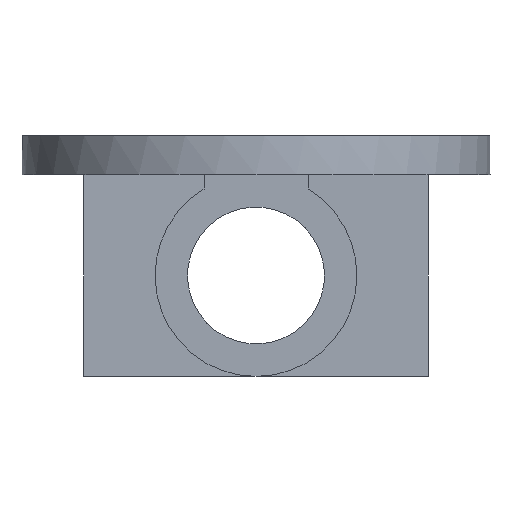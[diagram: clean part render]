
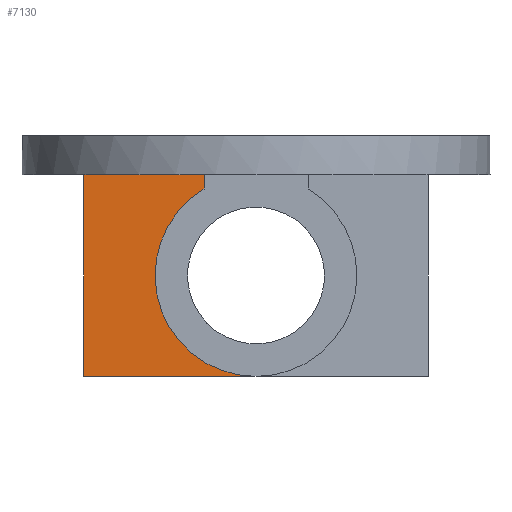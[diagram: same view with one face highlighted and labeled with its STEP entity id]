
A CAD part, left-side view. The second image highlights one B-rep face of the part: STEP entity #7130.
In plain terms, the highlighted planar face has unit normal (-1, 0, 0).
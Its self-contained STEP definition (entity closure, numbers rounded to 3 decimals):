
#33 = CYLINDRICAL_SURFACE('',#34,15.525);
#34 = AXIS2_PLACEMENT_3D('',#35,#36,#37);
#35 = CARTESIAN_POINT('',(-18.,0.,0.));
#36 = DIRECTION('',(-1.,-0.,-0.));
#37 = DIRECTION('',(0.,1.,0.));
#84 = VERTEX_POINT('',#85);
#85 = CARTESIAN_POINT('',(-17.,0.,-15.525));
#116 = EDGE_CURVE('',#117,#84,#119,.T.);
#117 = VERTEX_POINT('',#118);
#118 = CARTESIAN_POINT('',(-17.,8.,13.305));
#119 = SURFACE_CURVE('',#120,(#125,#132),.PCURVE_S1.);
#120 = CIRCLE('',#121,15.525);
#121 = AXIS2_PLACEMENT_3D('',#122,#123,#124);
#122 = CARTESIAN_POINT('',(-17.,0.,0.));
#123 = DIRECTION('',(-1.,0.,0.));
#124 = DIRECTION('',(0.,0.515,0.857));
#125 = PCURVE('',#33,#126);
#126 = DEFINITIONAL_REPRESENTATION('',(#127),#131);
#127 = LINE('',#128,#129);
#128 = CARTESIAN_POINT('',(-7.313,-1.));
#129 = VECTOR('',#130,1.);
#130 = DIRECTION('',(1.,-0.));
#131 = ( GEOMETRIC_REPRESENTATION_CONTEXT(2) 
PARAMETRIC_REPRESENTATION_CONTEXT() REPRESENTATION_CONTEXT('2D SPACE',''
  ) );
#132 = PCURVE('',#133,#138);
#133 = PLANE('',#134);
#134 = AXIS2_PLACEMENT_3D('',#135,#136,#137);
#135 = CARTESIAN_POINT('',(-17.,-2.,-15.525));
#136 = DIRECTION('',(1.,0.,0.));
#137 = DIRECTION('',(0.,0.,1.));
#138 = DEFINITIONAL_REPRESENTATION('',(#139),#147);
#139 = ( BOUNDED_CURVE() B_SPLINE_CURVE(2,(#140,#141,#142,#143,#144,#145
,#146),.UNSPECIFIED.,.T.,.F.) B_SPLINE_CURVE_WITH_KNOTS((1,2,2,2,2,1),(
    -2.094,0.,2.094,4.189,6.283,
8.378),.UNSPECIFIED.) CURVE() GEOMETRIC_REPRESENTATION_ITEM() 
RATIONAL_B_SPLINE_CURVE((1.,0.5,1.,0.5,1.,0.5,1.)) REPRESENTATION_ITEM(
  '') );
#140 = CARTESIAN_POINT('',(28.83,-10.));
#141 = CARTESIAN_POINT('',(14.974,-33.045));
#142 = CARTESIAN_POINT('',(1.944,-9.523));
#143 = CARTESIAN_POINT('',(-11.085,14.));
#144 = CARTESIAN_POINT('',(15.801,13.523));
#145 = CARTESIAN_POINT('',(42.687,13.045));
#146 = CARTESIAN_POINT('',(28.83,-10.));
#147 = ( GEOMETRIC_REPRESENTATION_CONTEXT(2) 
PARAMETRIC_REPRESENTATION_CONTEXT() REPRESENTATION_CONTEXT('2D SPACE',''
  ) );
#162 = PLANE('',#163);
#163 = AXIS2_PLACEMENT_3D('',#164,#165,#166);
#164 = CARTESIAN_POINT('',(-18.,8.,8.525));
#165 = DIRECTION('',(0.,1.,0.));
#166 = DIRECTION('',(0.,0.,1.));
#200 = VERTEX_POINT('',#201);
#201 = CARTESIAN_POINT('',(-17.,8.,15.525));
#214 = PLANE('',#215);
#215 = AXIS2_PLACEMENT_3D('',#216,#217,#218);
#216 = CARTESIAN_POINT('',(0.,0.,15.525
    ));
#217 = DIRECTION('',(0.,0.,1.));
#218 = DIRECTION('',(1.,0.,-0.));
#225 = EDGE_CURVE('',#117,#200,#226,.T.);
#226 = SURFACE_CURVE('',#227,(#231,#237),.PCURVE_S1.);
#227 = LINE('',#228,#229);
#228 = CARTESIAN_POINT('',(-17.,8.,-3.5));
#229 = VECTOR('',#230,1.);
#230 = DIRECTION('',(0.,0.,1.));
#231 = PCURVE('',#162,#232);
#232 = DEFINITIONAL_REPRESENTATION('',(#233),#236);
#233 = B_SPLINE_CURVE_WITH_KNOTS('',1,(#234,#235),.UNSPECIFIED.,.F.,.F.,
  (2,2),(12.025,19.025),.PIECEWISE_BEZIER_KNOTS.);
#234 = CARTESIAN_POINT('',(0.,1.));
#235 = CARTESIAN_POINT('',(7.,1.));
#236 = ( GEOMETRIC_REPRESENTATION_CONTEXT(2) 
PARAMETRIC_REPRESENTATION_CONTEXT() REPRESENTATION_CONTEXT('2D SPACE',''
  ) );
#237 = PCURVE('',#133,#238);
#238 = DEFINITIONAL_REPRESENTATION('',(#239),#243);
#239 = LINE('',#240,#241);
#240 = CARTESIAN_POINT('',(12.025,-10.));
#241 = VECTOR('',#242,1.);
#242 = DIRECTION('',(1.,0.));
#243 = ( GEOMETRIC_REPRESENTATION_CONTEXT(2) 
PARAMETRIC_REPRESENTATION_CONTEXT() REPRESENTATION_CONTEXT('2D SPACE',''
  ) );
#732 = EDGE_CURVE('',#200,#733,#735,.T.);
#733 = VERTEX_POINT('',#734);
#734 = CARTESIAN_POINT('',(-17.,26.525,15.525));
#735 = SURFACE_CURVE('',#736,(#740,#747),.PCURVE_S1.);
#736 = LINE('',#737,#738);
#737 = CARTESIAN_POINT('',(-17.,-2.,15.525));
#738 = VECTOR('',#739,1.);
#739 = DIRECTION('',(0.,1.,0.));
#740 = PCURVE('',#214,#741);
#741 = DEFINITIONAL_REPRESENTATION('',(#742),#746);
#742 = LINE('',#743,#744);
#743 = CARTESIAN_POINT('',(-17.,-2.));
#744 = VECTOR('',#745,1.);
#745 = DIRECTION('',(0.,1.));
#746 = ( GEOMETRIC_REPRESENTATION_CONTEXT(2) 
PARAMETRIC_REPRESENTATION_CONTEXT() REPRESENTATION_CONTEXT('2D SPACE',''
  ) );
#747 = PCURVE('',#133,#748);
#748 = DEFINITIONAL_REPRESENTATION('',(#749),#753);
#749 = LINE('',#750,#751);
#750 = CARTESIAN_POINT('',(31.05,0.));
#751 = VECTOR('',#752,1.);
#752 = DIRECTION('',(0.,-1.));
#753 = ( GEOMETRIC_REPRESENTATION_CONTEXT(2) 
PARAMETRIC_REPRESENTATION_CONTEXT() REPRESENTATION_CONTEXT('2D SPACE',''
  ) );
#769 = PLANE('',#770);
#770 = AXIS2_PLACEMENT_3D('',#771,#772,#773);
#771 = CARTESIAN_POINT('',(-17.,26.525,-15.525));
#772 = DIRECTION('',(0.,1.,0.));
#773 = DIRECTION('',(0.,0.,1.));
#785 = VERTEX_POINT('',#786);
#786 = CARTESIAN_POINT('',(-17.,26.525,-15.525));
#802 = PLANE('',#803);
#803 = AXIS2_PLACEMENT_3D('',#804,#805,#806);
#804 = CARTESIAN_POINT('',(-17.,-2.,-15.525));
#805 = DIRECTION('',(0.,0.,1.));
#806 = DIRECTION('',(1.,0.,0.));
#814 = EDGE_CURVE('',#785,#733,#815,.T.);
#815 = SURFACE_CURVE('',#816,(#820,#827),.PCURVE_S1.);
#816 = LINE('',#817,#818);
#817 = CARTESIAN_POINT('',(-17.,26.525,-15.525));
#818 = VECTOR('',#819,1.);
#819 = DIRECTION('',(0.,0.,1.));
#820 = PCURVE('',#769,#821);
#821 = DEFINITIONAL_REPRESENTATION('',(#822),#826);
#822 = LINE('',#823,#824);
#823 = CARTESIAN_POINT('',(0.,0.));
#824 = VECTOR('',#825,1.);
#825 = DIRECTION('',(1.,0.));
#826 = ( GEOMETRIC_REPRESENTATION_CONTEXT(2) 
PARAMETRIC_REPRESENTATION_CONTEXT() REPRESENTATION_CONTEXT('2D SPACE',''
  ) );
#827 = PCURVE('',#133,#828);
#828 = DEFINITIONAL_REPRESENTATION('',(#829),#833);
#829 = LINE('',#830,#831);
#830 = CARTESIAN_POINT('',(0.,-28.525));
#831 = VECTOR('',#832,1.);
#832 = DIRECTION('',(1.,0.));
#833 = ( GEOMETRIC_REPRESENTATION_CONTEXT(2) 
PARAMETRIC_REPRESENTATION_CONTEXT() REPRESENTATION_CONTEXT('2D SPACE',''
  ) );
#860 = EDGE_CURVE('',#785,#84,#861,.T.);
#861 = SURFACE_CURVE('',#862,(#866,#873),.PCURVE_S1.);
#862 = LINE('',#863,#864);
#863 = CARTESIAN_POINT('',(-17.,26.525,-15.525));
#864 = VECTOR('',#865,1.);
#865 = DIRECTION('',(0.,-1.,0.));
#866 = PCURVE('',#802,#867);
#867 = DEFINITIONAL_REPRESENTATION('',(#868),#872);
#868 = LINE('',#869,#870);
#869 = CARTESIAN_POINT('',(0.,28.525));
#870 = VECTOR('',#871,1.);
#871 = DIRECTION('',(0.,-1.));
#872 = ( GEOMETRIC_REPRESENTATION_CONTEXT(2) 
PARAMETRIC_REPRESENTATION_CONTEXT() REPRESENTATION_CONTEXT('2D SPACE',''
  ) );
#873 = PCURVE('',#133,#874);
#874 = DEFINITIONAL_REPRESENTATION('',(#875),#879);
#875 = LINE('',#876,#877);
#876 = CARTESIAN_POINT('',(0.,-28.525));
#877 = VECTOR('',#878,1.);
#878 = DIRECTION('',(0.,1.));
#879 = ( GEOMETRIC_REPRESENTATION_CONTEXT(2) 
PARAMETRIC_REPRESENTATION_CONTEXT() REPRESENTATION_CONTEXT('2D SPACE',''
  ) );
#7130 = ADVANCED_FACE('',(#7131),#133,.F.);
#7131 = FACE_BOUND('',#7132,.F.);
#7132 = EDGE_LOOP('',(#7133,#7134,#7135,#7136,#7137));
#7133 = ORIENTED_EDGE('',*,*,#732,.F.);
#7134 = ORIENTED_EDGE('',*,*,#225,.F.);
#7135 = ORIENTED_EDGE('',*,*,#116,.T.);
#7136 = ORIENTED_EDGE('',*,*,#860,.F.);
#7137 = ORIENTED_EDGE('',*,*,#814,.T.);
